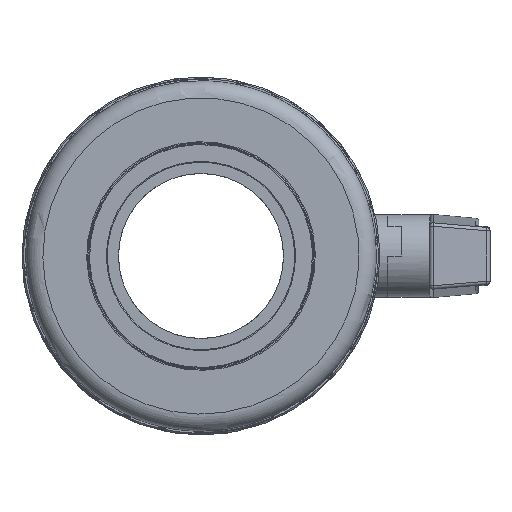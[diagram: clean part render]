
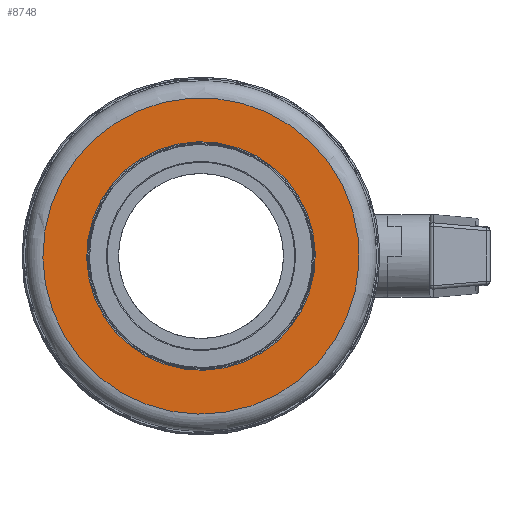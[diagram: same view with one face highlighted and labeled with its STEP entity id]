
A CAD part, front view. The second image highlights one B-rep face of the part: STEP entity #8748.
In plain terms, the highlighted planar face has unit normal (0, -1, 0).
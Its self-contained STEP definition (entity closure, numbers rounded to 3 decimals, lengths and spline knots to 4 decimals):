
#1708=FACE_BOUND('',#2486,.T.);
#1960=FACE_OUTER_BOUND('',#2485,.T.);
#2485=EDGE_LOOP('',(#6414));
#2486=EDGE_LOOP('',(#6415));
#2969=CIRCLE('',#9271,9.275);
#3033=CIRCLE('',#9376,6.705);
#3576=VERTEX_POINT('',#31375);
#3636=VERTEX_POINT('',#35306);
#4511=EDGE_CURVE('',#3576,#3576,#2969,.T.);
#4633=EDGE_CURVE('',#3636,#3636,#3033,.T.);
#6414=ORIENTED_EDGE('',*,*,#4511,.F.);
#6415=ORIENTED_EDGE('',*,*,#4633,.T.);
#7937=PLANE('',#9375);
#8748=ADVANCED_FACE('',(#1960,#1708),#7937,.T.);
#9271=AXIS2_PLACEMENT_3D('',#31376,#10479,#10480);
#9375=AXIS2_PLACEMENT_3D('',#35305,#10721,#10722);
#9376=AXIS2_PLACEMENT_3D('',#35307,#10723,#10724);
#10479=DIRECTION('center_axis',(0.,1.,0.));
#10480=DIRECTION('ref_axis',(0.946,0.,-0.324));
#10721=DIRECTION('center_axis',(0.,-1.,0.));
#10722=DIRECTION('ref_axis',(-0.324,0.,-0.946));
#10723=DIRECTION('center_axis',(0.,1.,0.));
#10724=DIRECTION('ref_axis',(0.946,0.,-0.324));
#31375=CARTESIAN_POINT('',(-8.7754,-10.35,3.0029));
#31376=CARTESIAN_POINT('Origin',(0.,-10.35,0.));
#35305=CARTESIAN_POINT('Origin',(-8.7754,-10.35,3.0029));
#35306=CARTESIAN_POINT('',(-6.3439,-10.35,2.1708));
#35307=CARTESIAN_POINT('Origin',(0.,-10.35,0.));
